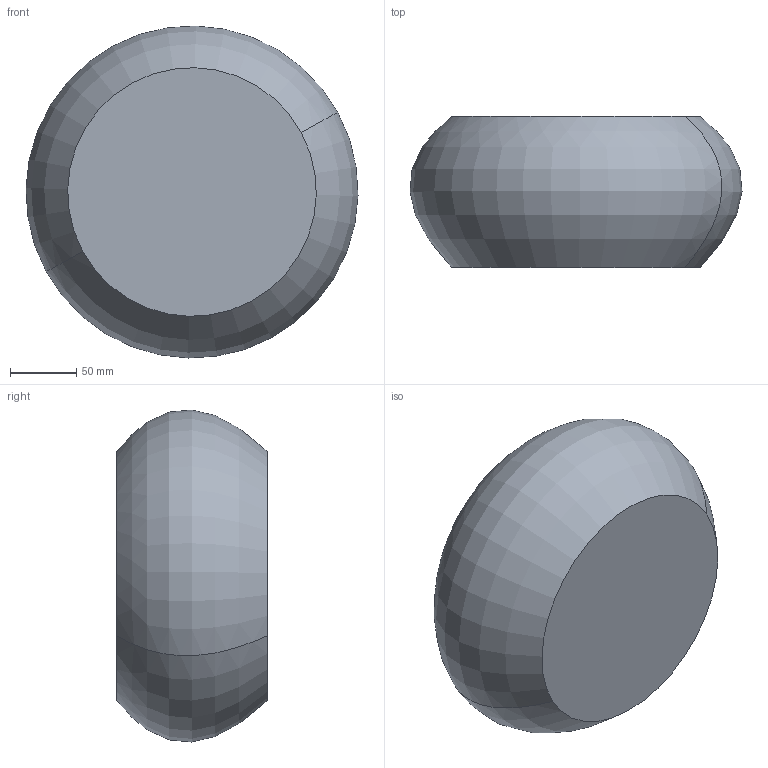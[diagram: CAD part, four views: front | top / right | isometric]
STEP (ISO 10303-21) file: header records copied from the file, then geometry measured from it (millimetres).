
FILE_DESCRIPTION(('CATIA V5 STEP Exchange'),'2;1');
FILE_NAME('C:\_Andres\UNIVERSIDAD\IQS\ASIGNATURAS\DAO\EXF\EXF-15161c\1original\Casals_Vilar_Ej10-decora_v4.stp','2016-03-04T22:24:11+00:00',('none'),('none'),'CATIA Version 5 Release 20 SP 1 (IN-10)','CATIA V5 STEP AP203','none');
FILE_SCHEMA(('CONFIG_CONTROL_DESIGN'));
Length unit declared in the file: millimetre
Products named in the file (1): Casals_Vilar_Ej10-decora_v4
Bounding box: 251 x 114 x 251 mm (x, y, z)
Volume: 4777908.4 mm3; surface area: 151750.1 mm2
Topology: 1 solids, 1 shells, 4 faces, 6 edges, 4 vertices
Faces by surface type: revolution 2, plane 2
Entity records: 166 total; most frequent: CARTESIAN_POINT 50, DIRECTION 12, ORIENTED_EDGE 12, AXIS2_PLACEMENT_3D 8, EDGE_CURVE 6, ADVANCED_FACE 4, B_SPLINE_CURVE_WITH_KNOTS 4, CC_DESIGN_PERSON_AND_ORGANIZATION_ASSIGNMENT 4
